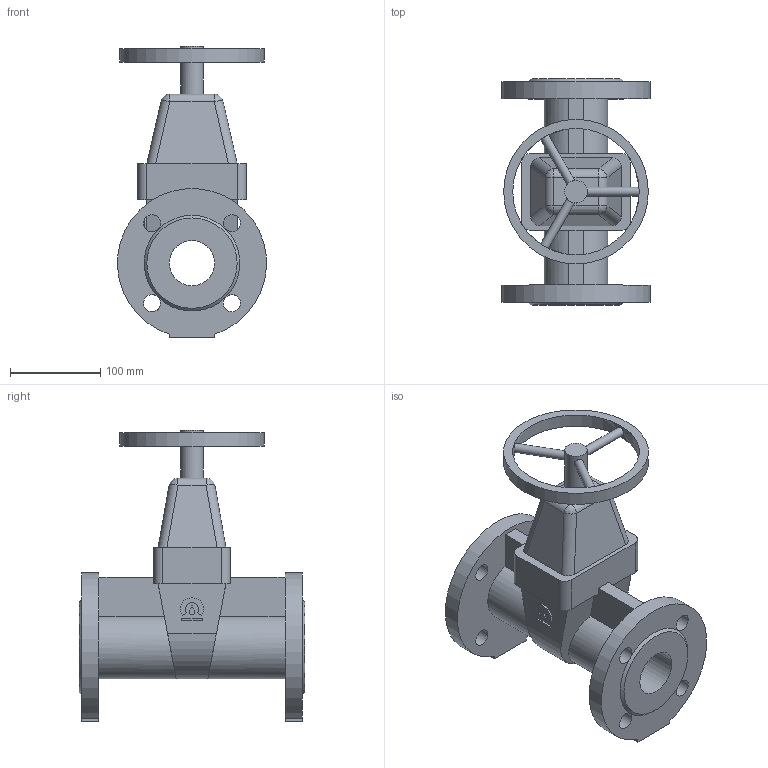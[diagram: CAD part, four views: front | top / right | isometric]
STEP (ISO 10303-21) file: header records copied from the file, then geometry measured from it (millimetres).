
FILE_DESCRIPTION(('STEP AP203'), '1');
FILE_NAME('Çàäâèæêà 47GV DN50 PN10_PN16_L250 ñ ìàõîâèêîì', '', ('UNSPECIFIED'), ('UNSPECIFIED'), 'ASCON STEP Converter 1.6', 'ASCON Math Kernel', '');
FILE_SCHEMA(('CONFIG_CONTROL_DESIGN'));
Length unit declared in the file: millimetre
Bounding box: 164.7 x 250 x 322.5 mm (x, y, z)
Volume: 2468402.2 mm3; surface area: 284731.3 mm2
Topology: 1 solids, 1 shells, 94 faces, 249 edges, 156 vertices
Faces by surface type: plane 49, cylinder 39, bspline 4, cone 2
Full cylindrical faces by diameter (mm): 10 x3, 19 x8, 25 x1, 50 x1, 140 x1, 160 x1
Entity records: 4504 total; most frequent: CARTESIAN_POINT 1517, DIRECTION 444, ORIENTED_EDGE 424, EDGE_CURVE 212, AXIS2_PLACEMENT_3D 159, VERTEX_POINT 148, EDGE_LOOP 146, LINE 126
